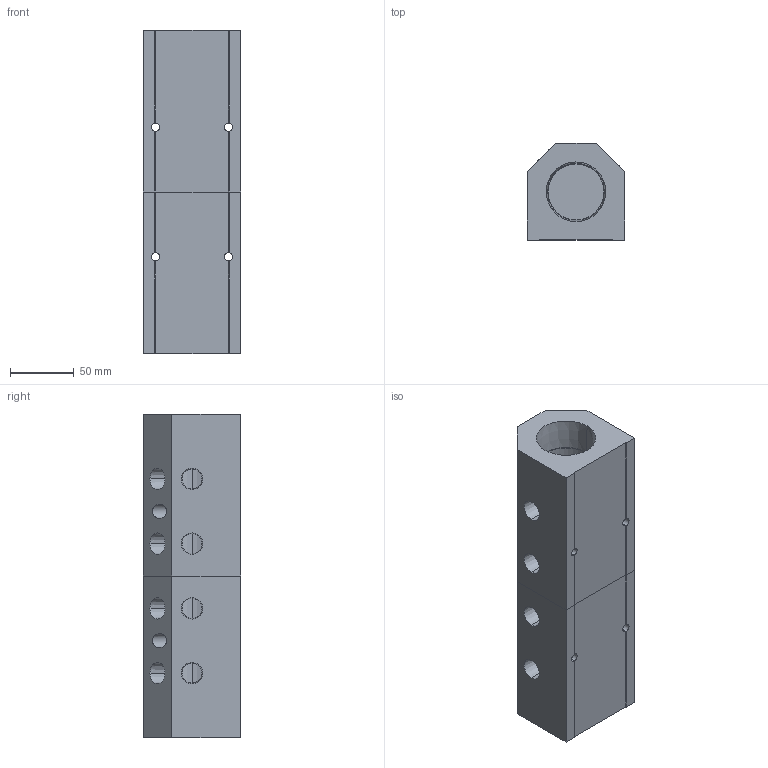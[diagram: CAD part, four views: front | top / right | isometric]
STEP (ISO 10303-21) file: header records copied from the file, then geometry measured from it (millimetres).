
FILE_DESCRIPTION (( 'STEP AP214' ), '1' );
FILE_NAME ('ALM4ABC-N6N24-254RB.step', '2022-02-07T09:15:54', ( '' ), ( '' ), 'SwSTEP 2.0', 'SolidWorks 2020', '' );
FILE_SCHEMA (( 'AUTOMOTIVE_DESIGN' ));
Length unit declared in the file: millimetre
Products named in the file (1): ALM4ABC-N6N24-254RB
Bounding box: 76.2 x 76.2 x 254 mm (x, y, z)
Volume: 901239.2 mm3; surface area: 137678.1 mm2
Topology: 2 solids, 2 shells, 377 faces, 995 edges, 658 vertices
Faces by surface type: plane 264, bspline 65, cone 28, cylinder 20
Entity records: 20410 total; most frequent: CARTESIAN_POINT 7920, ORIENTED_EDGE 1990, DIRECTION 1515, EDGE_CURVE 995, VECTOR 761, LINE 761, VERTEX_POINT 658, EDGE_LOOP 445
